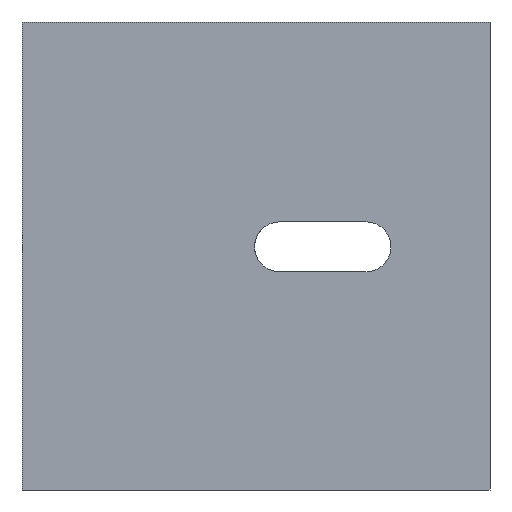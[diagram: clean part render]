
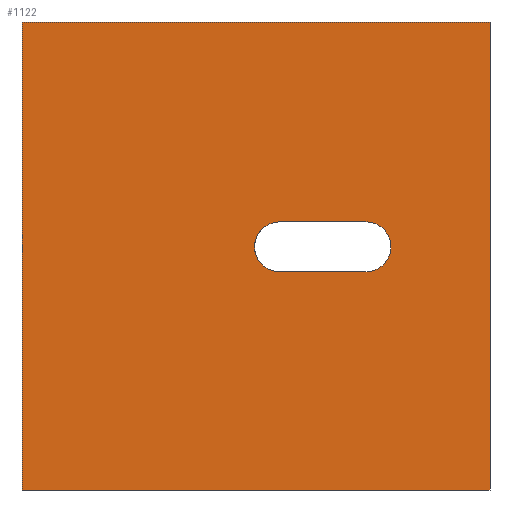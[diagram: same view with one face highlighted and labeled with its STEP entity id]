
A CAD part, left-side view. The second image highlights one B-rep face of the part: STEP entity #1122.
In plain terms, the highlighted planar face has unit normal (-1, 0, 0).
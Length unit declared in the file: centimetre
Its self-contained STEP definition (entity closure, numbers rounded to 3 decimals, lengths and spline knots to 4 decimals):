
#23 = EDGE_CURVE ( 'NONE', #234, #1188, #737, .T. ) ;
#48 = VERTEX_POINT ( 'NONE', #1192 ) ;
#56 = ORIENTED_EDGE ( 'NONE', *, *, #161, .T. ) ;
#74 = AXIS2_PLACEMENT_3D ( 'NONE', #1086, #978, #871 ) ;
#85 = CARTESIAN_POINT ( 'NONE',  ( 0., 449.6418, 519.5429 ) ) ;
#95 = DIRECTION ( 'NONE',  ( 0., 0., -1. ) ) ;
#124 = CARTESIAN_POINT ( 'NONE',  ( 0., 1000., 1000. ) ) ;
#161 = EDGE_CURVE ( 'NONE', #595, #188, #988, .T. ) ;
#188 = VERTEX_POINT ( 'NONE', #593 ) ;
#209 = FACE_OUTER_BOUND ( 'NONE', #882, .T. ) ;
#231 = ORIENTED_EDGE ( 'NONE', *, *, #275, .F. ) ;
#234 = VERTEX_POINT ( 'NONE', #813 ) ;
#275 = EDGE_CURVE ( 'NONE', #543, #1152, #1038, .T. ) ;
#293 = LINE ( 'NONE', #1325, #740 ) ;
#305 = FACE_BOUND ( 'NONE', #899, .T. ) ;
#312 = CARTESIAN_POINT ( 'NONE',  ( 0., 0., 1000. ) ) ;
#320 = DIRECTION ( 'NONE',  ( 1., 0., 0. ) ) ;
#353 = ORIENTED_EDGE ( 'NONE', *, *, #1270, .F. ) ;
#380 = EDGE_CURVE ( 'NONE', #887, #234, #781, .T. ) ;
#386 = ORIENTED_EDGE ( 'NONE', *, *, #1107, .T. ) ;
#414 = PLANE ( 'NONE',  #814 ) ;
#444 = AXIS2_PLACEMENT_3D ( 'NONE', #85, #320, #931 ) ;
#499 = CARTESIAN_POINT ( 'NONE',  ( 0., 0., 0. ) ) ;
#523 = DIRECTION ( 'NONE',  ( 1., 0., 0. ) ) ;
#543 = VERTEX_POINT ( 'NONE', #829 ) ;
#593 = CARTESIAN_POINT ( 'NONE',  ( 0., 1000., 0. ) ) ;
#595 = VERTEX_POINT ( 'NONE', #656 ) ;
#656 = CARTESIAN_POINT ( 'NONE',  ( 0., 1000., 1000. ) ) ;
#698 = DIRECTION ( 'NONE',  ( 0., 0., -1. ) ) ;
#702 = VECTOR ( 'NONE', #1269, 100. ) ;
#718 = DIRECTION ( 'NONE',  ( 0., 0., -1. ) ) ;
#737 = CIRCLE ( 'NONE', #74, 53.4288 ) ;
#740 = VECTOR ( 'NONE', #930, 100. ) ;
#781 = LINE ( 'NONE', #893, #934 ) ;
#813 = CARTESIAN_POINT ( 'NONE',  ( 0., 265.063, 572.9717 ) ) ;
#814 = AXIS2_PLACEMENT_3D ( 'NONE', #1236, #523, #718 ) ;
#824 = CARTESIAN_POINT ( 'NONE',  ( 0., 265.063, 466.1142 ) ) ;
#829 = CARTESIAN_POINT ( 'NONE',  ( 0., 0., 1000. ) ) ;
#831 = CARTESIAN_POINT ( 'NONE',  ( 0., 449.6418, 572.9717 ) ) ;
#871 = DIRECTION ( 'NONE',  ( 0., 0., -1. ) ) ;
#882 = EDGE_LOOP ( 'NONE', ( #1011, #231, #353, #56 ) ) ;
#887 = VERTEX_POINT ( 'NONE', #831 ) ;
#893 = CARTESIAN_POINT ( 'NONE',  ( 0., 449.6418, 572.9717 ) ) ;
#899 = EDGE_LOOP ( 'NONE', ( #1003, #1163, #1025, #386 ) ) ;
#905 = EDGE_CURVE ( 'NONE', #188, #1152, #293, .T. ) ;
#930 = DIRECTION ( 'NONE',  ( 0., -1., 0. ) ) ;
#931 = DIRECTION ( 'NONE',  ( 0., 0., -1. ) ) ;
#934 = VECTOR ( 'NONE', #1084, 100. ) ;
#948 = LINE ( 'NONE', #124, #702 ) ;
#954 = VECTOR ( 'NONE', #698, 100. ) ;
#978 = DIRECTION ( 'NONE',  ( 1., 0., 0. ) ) ;
#988 = LINE ( 'NONE', #1297, #954 ) ;
#994 = VECTOR ( 'NONE', #95, 100. ) ;
#1003 = ORIENTED_EDGE ( 'NONE', *, *, #380, .T. ) ;
#1011 = ORIENTED_EDGE ( 'NONE', *, *, #905, .T. ) ;
#1025 = ORIENTED_EDGE ( 'NONE', *, *, #1112, .T. ) ;
#1026 = DIRECTION ( 'NONE',  ( 0., 1., 0. ) ) ;
#1038 = LINE ( 'NONE', #312, #994 ) ;
#1077 = CIRCLE ( 'NONE', #444, 53.4288 ) ;
#1084 = DIRECTION ( 'NONE',  ( 0., -1., 0. ) ) ;
#1086 = CARTESIAN_POINT ( 'NONE',  ( 0., 265.063, 519.5429 ) ) ;
#1107 = EDGE_CURVE ( 'NONE', #48, #887, #1077, .T. ) ;
#1112 = EDGE_CURVE ( 'NONE', #1188, #48, #1328, .T. ) ;
#1122 = ADVANCED_FACE ( 'NONE', ( #305, #209 ), #414, .F. ) ;
#1146 = CARTESIAN_POINT ( 'NONE',  ( 0., 265.063, 466.1142 ) ) ;
#1152 = VERTEX_POINT ( 'NONE', #499 ) ;
#1163 = ORIENTED_EDGE ( 'NONE', *, *, #23, .T. ) ;
#1188 = VERTEX_POINT ( 'NONE', #1146 ) ;
#1192 = CARTESIAN_POINT ( 'NONE',  ( 0., 449.6418, 466.1142 ) ) ;
#1236 = CARTESIAN_POINT ( 'NONE',  ( 0., 1000., 1000. ) ) ;
#1249 = VECTOR ( 'NONE', #1026, 100. ) ;
#1269 = DIRECTION ( 'NONE',  ( 0., -1., 0. ) ) ;
#1270 = EDGE_CURVE ( 'NONE', #595, #543, #948, .T. ) ;
#1297 = CARTESIAN_POINT ( 'NONE',  ( 0., 1000., 1000. ) ) ;
#1325 = CARTESIAN_POINT ( 'NONE',  ( 0., 1000., 0. ) ) ;
#1328 = LINE ( 'NONE', #824, #1249 ) ;
